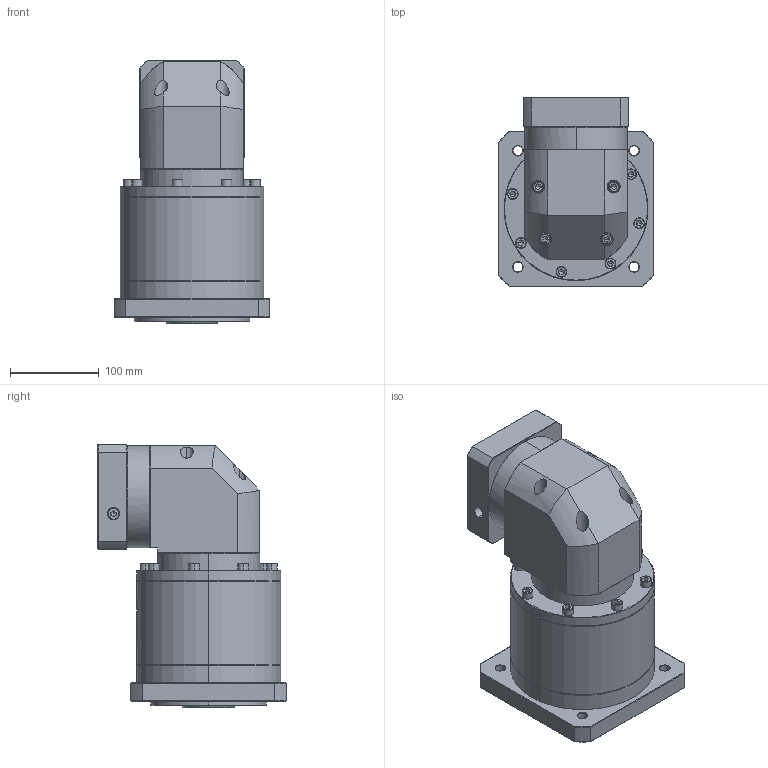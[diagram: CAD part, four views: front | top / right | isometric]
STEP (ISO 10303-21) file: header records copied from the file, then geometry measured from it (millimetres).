
FILE_DESCRIPTION (( 'STEP AP214' ), '1' );
FILE_NAME ('ZFR160A-K35-L3-P2-24-95-115-M6.step', '2023-09-03T09:46:18', ( '' ), ( '' ), 'SwSTEP 2.0', 'SolidWorks 2016', '' );
FILE_SCHEMA (( 'AUTOMOTIVE_DESIGN' ));
Length unit declared in the file: millimetre
Products named in the file (1): ZFR160A-K35-L3-P2-24-95-115-M6
Bounding box: 175 x 212.4 x 296.2 mm (x, y, z)
Volume: 5386016 mm3; surface area: 344974.9 mm2
Topology: 6 solids, 6 shells, 2400 faces, 6271 edges, 3996 vertices
Faces by surface type: plane 1138, cylinder 447, bspline 407, cone 364, torus 44
Entity records: 126615 total; most frequent: CARTESIAN_POINT 46341, ORIENTED_EDGE 12438, DIRECTION 9484, EDGE_CURVE 6219, VERTEX_POINT 3996, VECTOR 3362, LINE 3362, AXIS2_PLACEMENT_3D 3061
